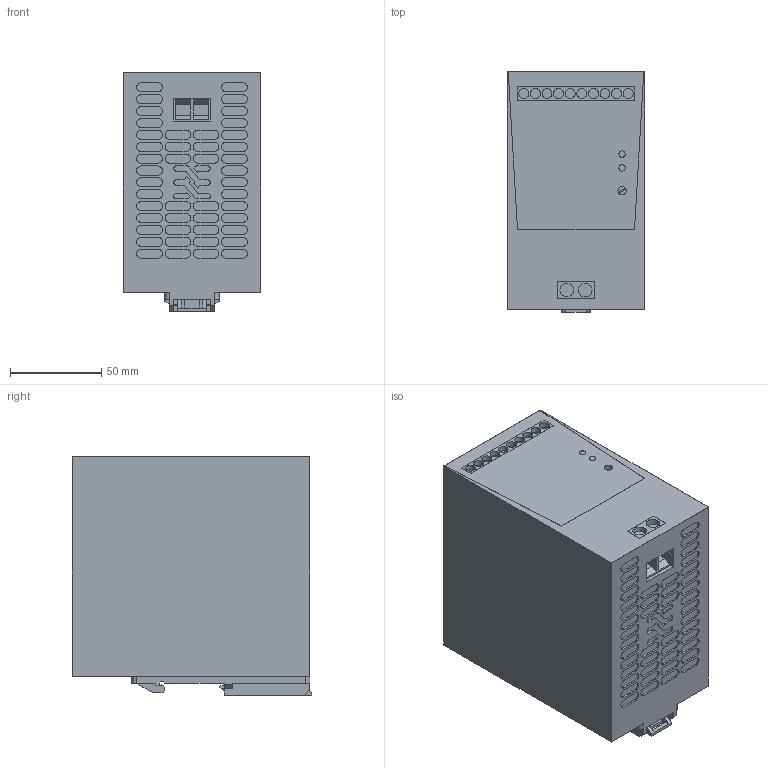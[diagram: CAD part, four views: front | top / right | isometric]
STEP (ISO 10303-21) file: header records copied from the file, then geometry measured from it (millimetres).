
FILE_DESCRIPTION(('CATIA V5R24 STEP','CAx-IF Rec.Pracs.--- Model Styling and Organization---1.2---2011-12-15'),'2;1');
FILE_NAME('\\SRVDE107\Germany\WMC\1_WMC_Input\Step_BU_PA\2001820000.stp','2017-09-06T08:59:43+00:00',('Weidmueller Interface'),('WI'),'CATIA Version 5-6 Release 2014 SP4','CATIA V5 STEP AP214','none');
FILE_SCHEMA(('AUTOMOTIVE_DESIGN { 1 0 10303 214 1 1 1 1 }'));
Length unit declared in the file: millimetre
Products named in the file (1): 2001820000
Bounding box: 75 x 131.2 x 130.5 mm (x, y, z)
Volume: 1174540.9 mm3; surface area: 112168.2 mm2
Topology: 9 solids, 9 shells, 839 faces, 2115 edges, 1416 vertices
Faces by surface type: plane 580, cylinder 259
Entity records: 23654 total; most frequent: ORIENTED_EDGE 4230, CARTESIAN_POINT 4032, DIRECTION 3013, EDGE_CURVE 2115, VECTOR 1559, LINE 1559, VERTEX_POINT 1416, AXIS2_PLACEMENT_3D 989
